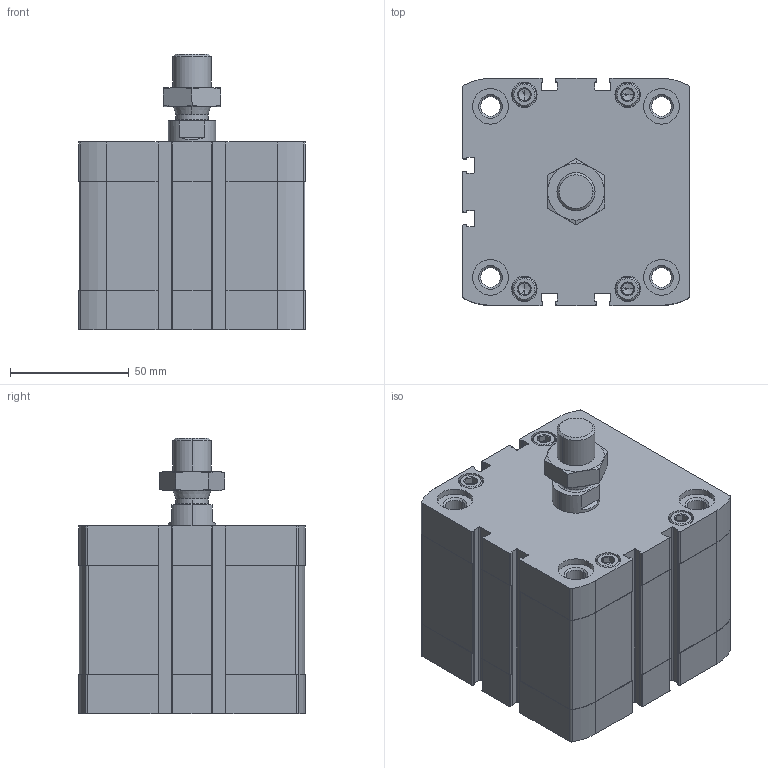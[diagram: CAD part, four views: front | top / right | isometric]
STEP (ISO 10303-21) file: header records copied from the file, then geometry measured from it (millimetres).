
FILE_DESCRIPTION (( 'STEP AP203' ), '1' );
FILE_NAME ('CCN80-25M.STEP', '2017-04-05T20:19:39', ( '' ), ( '' ), 'SwSTEP 2.0', 'SolidWorks 2016', '' );
FILE_SCHEMA (( 'CONFIG_CONTROL_DESIGN' ));
Length unit declared in the file: millimetre
Products named in the file (4): CCN-25---(Z); CCN-25_(KS); _DIN-439-B - M16x1.5(F); CCN80-25M
Assembly tree (3 placements, depth 2):
  CCN80-25M
    CCN-25---(Z)
    CCN-25_(KS)
    _DIN-439-B - M16x1.5(F)
Bounding box: 95.5 x 95.5 x 115.9 mm (x, y, z)
Volume: 565877.4 mm3; surface area: 108755 mm2
Topology: 3 solids, 3 shells, 507 faces, 1276 edges, 806 vertices
Faces by surface type: plane 235, cylinder 188, cone 80, bspline 4
Entity records: 16066 total; most frequent: CARTESIAN_POINT 3291, DIRECTION 2700, ORIENTED_EDGE 2520, EDGE_CURVE 1260, AXIS2_PLACEMENT_3D 1011, VERTEX_POINT 806, VECTOR 678, LINE 678
